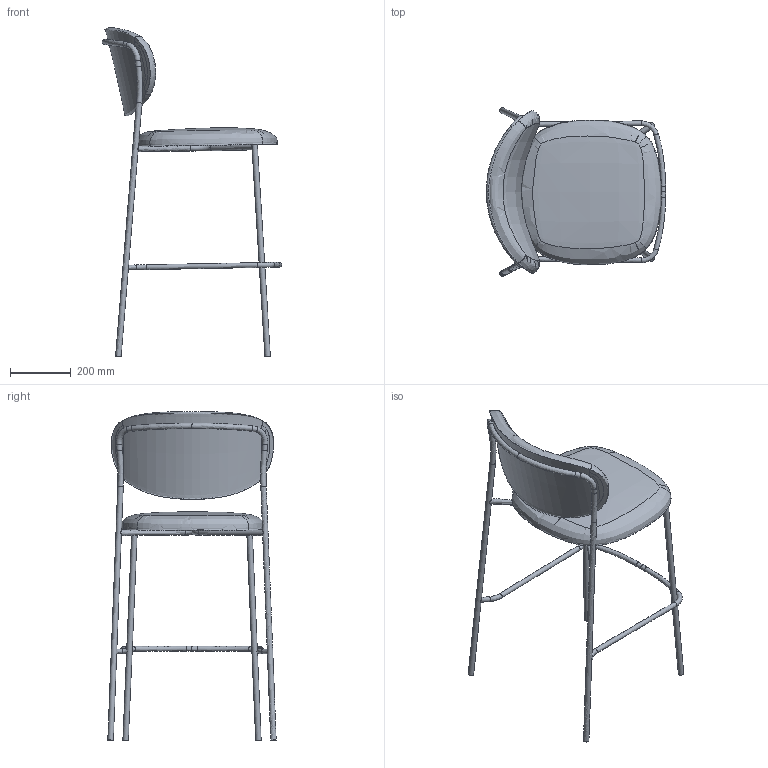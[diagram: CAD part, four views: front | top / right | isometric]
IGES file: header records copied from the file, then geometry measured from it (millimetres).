
Global section: file name: C:\Users\Giacomo\Desktop\MARGOT_sgabello.igs; native system: Rhinoceros ( May  4 2022 ); preprocessor: Trout Lake IGES 012 May  4 2022; date: 241106.135030; units: millimetre
Bounding box: 588.42 x 552.93 x 1079.76 mm (x, y, z)
Surface area: 1109134.5 mm2 (no closed solid volume)
Topology: 0 solids, 0 shells, 64 faces, 977 edges, 938 vertices
Faces by surface type: bspline 64
